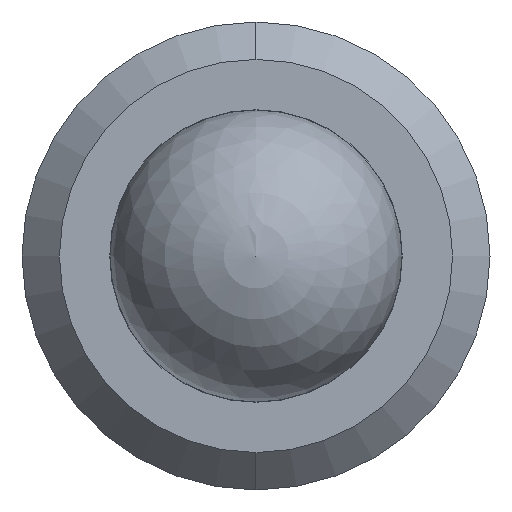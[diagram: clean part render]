
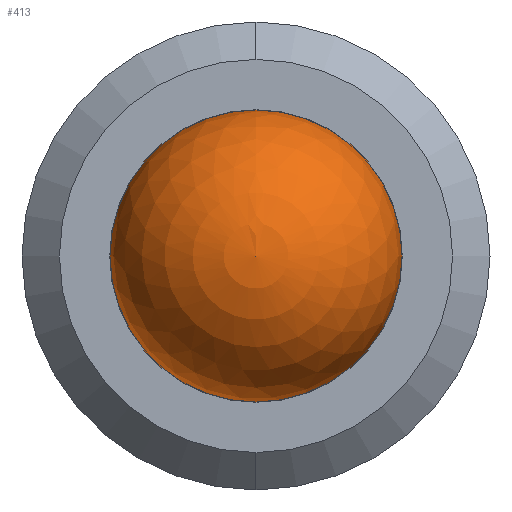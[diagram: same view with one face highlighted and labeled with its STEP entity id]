
A CAD part, left-side view. The second image highlights one B-rep face of the part: STEP entity #413.
In plain terms, the highlighted spherical face has radius 1.984 mm.
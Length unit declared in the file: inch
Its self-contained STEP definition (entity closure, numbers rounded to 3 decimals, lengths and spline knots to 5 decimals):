
#59 = EDGE_CURVE ( 'NONE', #274, #152, #153, .T. ) ;
#129 = AXIS2_PLACEMENT_3D ( 'NONE', #529, #151, #300 ) ;
#151 = DIRECTION ( 'NONE',  ( -1., 0., 0. ) ) ;
#152 = VERTEX_POINT ( 'NONE', #594 ) ;
#153 = CIRCLE ( 'NONE', #523, 0.07813 ) ;
#170 = EDGE_LOOP ( 'NONE', ( #205, #470 ) ) ;
#177 = EDGE_CURVE ( 'NONE', #274, #152, #618, .T. ) ;
#205 = ORIENTED_EDGE ( 'NONE', *, *, #59, .F. ) ;
#222 = CARTESIAN_POINT ( 'NONE',  ( 0., 0.07813, 0. ) ) ;
#274 = VERTEX_POINT ( 'NONE', #222 ) ;
#282 = DIRECTION ( 'NONE',  ( 0., 0., 1. ) ) ;
#300 = DIRECTION ( 'NONE',  ( 0., 0., 1. ) ) ;
#399 = AXIS2_PLACEMENT_3D ( 'NONE', #557, #547, #282 ) ;
#413 = ADVANCED_FACE ( 'NONE', ( #603 ), #621, .T. ) ;
#470 = ORIENTED_EDGE ( 'NONE', *, *, #177, .T. ) ;
#523 = AXIS2_PLACEMENT_3D ( 'NONE', #601, #593, #558 ) ;
#529 = CARTESIAN_POINT ( 'NONE',  ( 0., 0., 0. ) ) ;
#547 = DIRECTION ( 'NONE',  ( -1., 0., 0. ) ) ;
#557 = CARTESIAN_POINT ( 'NONE',  ( 0., 0., 0. ) ) ;
#558 = DIRECTION ( 'NONE',  ( 0., 0., -1. ) ) ;
#593 = DIRECTION ( 'NONE',  ( 1., 0., 0. ) ) ;
#594 = CARTESIAN_POINT ( 'NONE',  ( 0., -0.07813, 0. ) ) ;
#601 = CARTESIAN_POINT ( 'NONE',  ( 0., 0., 0. ) ) ;
#603 = FACE_OUTER_BOUND ( 'NONE', #170, .T. ) ;
#618 = CIRCLE ( 'NONE', #399, 0.07813 ) ;
#621 = SPHERICAL_SURFACE ( 'NONE', #129, 0.07813 ) ;
